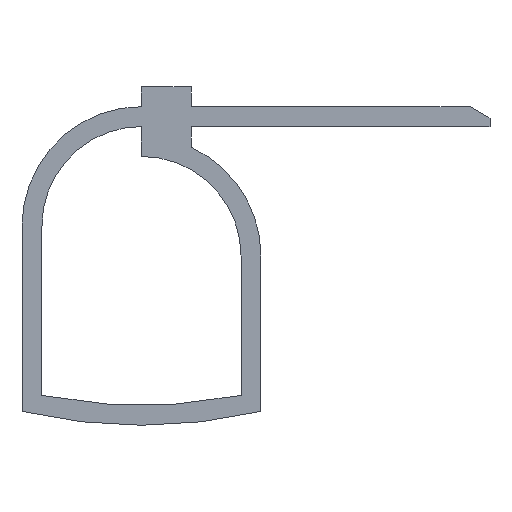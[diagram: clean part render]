
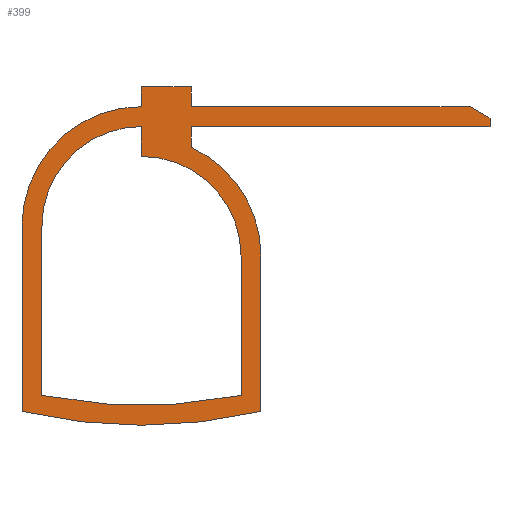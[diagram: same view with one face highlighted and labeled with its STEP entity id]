
A CAD part, front view. The second image highlights one B-rep face of the part: STEP entity #399.
In plain terms, the highlighted planar face has unit normal (0, -1, 0).
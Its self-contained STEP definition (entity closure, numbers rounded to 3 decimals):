
#19=FACE_BOUND('',#61,.T.);
#21=PLANE('',#436);
#38=FACE_OUTER_BOUND('',#60,.T.);
#60=EDGE_LOOP('',(#303,#304,#305,#306,#307,#308,#309,#310,#311,#312,#313,
#314,#315));
#61=EDGE_LOOP('',(#316,#317,#318,#319,#320,#321));
#96=LINE('',#626,#141);
#97=LINE('',#628,#142);
#98=LINE('',#630,#143);
#99=LINE('',#632,#144);
#100=LINE('',#634,#145);
#101=LINE('',#636,#146);
#102=LINE('',#639,#147);
#103=LINE('',#641,#148);
#104=LINE('',#645,#149);
#105=LINE('',#646,#150);
#106=LINE('',#651,#151);
#107=LINE('',#654,#152);
#108=LINE('',#655,#153);
#141=VECTOR('',#501,1000.);
#142=VECTOR('',#502,1000.);
#143=VECTOR('',#503,1000.);
#144=VECTOR('',#504,1000.);
#145=VECTOR('',#505,1000.);
#146=VECTOR('',#506,1000.);
#147=VECTOR('',#509,1000.);
#148=VECTOR('',#510,1000.);
#149=VECTOR('',#513,1000.);
#150=VECTOR('',#514,1000.);
#151=VECTOR('',#517,1000.);
#152=VECTOR('',#520,1000.);
#153=VECTOR('',#521,1000.);
#170=CIRCLE('',#427,50.5);
#172=CIRCLE('',#430,52.5);
#177=CIRCLE('',#437,12.);
#178=CIRCLE('',#438,12.);
#179=CIRCLE('',#439,10.);
#180=CIRCLE('',#440,10.);
#183=VERTEX_POINT('',#576);
#184=VERTEX_POINT('',#578);
#187=VERTEX_POINT('',#585);
#188=VERTEX_POINT('',#587);
#204=VERTEX_POINT('',#624);
#205=VERTEX_POINT('',#625);
#206=VERTEX_POINT('',#627);
#207=VERTEX_POINT('',#629);
#208=VERTEX_POINT('',#631);
#209=VERTEX_POINT('',#633);
#210=VERTEX_POINT('',#635);
#211=VERTEX_POINT('',#637);
#212=VERTEX_POINT('',#640);
#213=VERTEX_POINT('',#642);
#214=VERTEX_POINT('',#644);
#215=VERTEX_POINT('',#647);
#216=VERTEX_POINT('',#648);
#217=VERTEX_POINT('',#650);
#218=VERTEX_POINT('',#652);
#221=EDGE_CURVE('',#184,#183,#170,.T.);
#225=EDGE_CURVE('',#187,#188,#172,.T.);
#244=EDGE_CURVE('',#204,#205,#96,.T.);
#245=EDGE_CURVE('',#204,#206,#97,.T.);
#246=EDGE_CURVE('',#207,#206,#98,.T.);
#247=EDGE_CURVE('',#208,#207,#99,.T.);
#248=EDGE_CURVE('',#209,#208,#100,.T.);
#249=EDGE_CURVE('',#210,#209,#101,.T.);
#250=EDGE_CURVE('',#211,#210,#177,.T.);
#251=EDGE_CURVE('',#188,#211,#102,.T.);
#252=EDGE_CURVE('',#212,#187,#103,.T.);
#253=EDGE_CURVE('',#213,#212,#178,.T.);
#254=EDGE_CURVE('',#214,#213,#104,.T.);
#255=EDGE_CURVE('',#205,#214,#105,.T.);
#256=EDGE_CURVE('',#215,#216,#179,.T.);
#257=EDGE_CURVE('',#216,#217,#106,.T.);
#258=EDGE_CURVE('',#217,#218,#180,.T.);
#259=EDGE_CURVE('',#218,#184,#107,.T.);
#260=EDGE_CURVE('',#183,#215,#108,.T.);
#303=ORIENTED_EDGE('',*,*,#244,.F.);
#304=ORIENTED_EDGE('',*,*,#245,.T.);
#305=ORIENTED_EDGE('',*,*,#246,.F.);
#306=ORIENTED_EDGE('',*,*,#247,.F.);
#307=ORIENTED_EDGE('',*,*,#248,.F.);
#308=ORIENTED_EDGE('',*,*,#249,.F.);
#309=ORIENTED_EDGE('',*,*,#250,.F.);
#310=ORIENTED_EDGE('',*,*,#251,.F.);
#311=ORIENTED_EDGE('',*,*,#225,.F.);
#312=ORIENTED_EDGE('',*,*,#252,.F.);
#313=ORIENTED_EDGE('',*,*,#253,.F.);
#314=ORIENTED_EDGE('',*,*,#254,.F.);
#315=ORIENTED_EDGE('',*,*,#255,.F.);
#316=ORIENTED_EDGE('',*,*,#256,.T.);
#317=ORIENTED_EDGE('',*,*,#257,.T.);
#318=ORIENTED_EDGE('',*,*,#258,.T.);
#319=ORIENTED_EDGE('',*,*,#259,.T.);
#320=ORIENTED_EDGE('',*,*,#221,.T.);
#321=ORIENTED_EDGE('',*,*,#260,.T.);
#399=ADVANCED_FACE('',(#38,#19),#21,.F.);
#427=AXIS2_PLACEMENT_3D('',#579,#465,#466);
#430=AXIS2_PLACEMENT_3D('',#588,#473,#474);
#436=AXIS2_PLACEMENT_3D('',#623,#499,#500);
#437=AXIS2_PLACEMENT_3D('',#638,#507,#508);
#438=AXIS2_PLACEMENT_3D('',#643,#511,#512);
#439=AXIS2_PLACEMENT_3D('',#649,#515,#516);
#440=AXIS2_PLACEMENT_3D('',#653,#518,#519);
#465=DIRECTION('center_axis',(0.,1.,0.));
#466=DIRECTION('ref_axis',(0.,0.,-1.));
#473=DIRECTION('center_axis',(0.,1.,0.));
#474=DIRECTION('ref_axis',(0.,0.,-1.));
#499=DIRECTION('center_axis',(0.,1.,0.));
#500=DIRECTION('ref_axis',(0.,0.,1.));
#501=DIRECTION('',(0.,0.,-1.));
#502=DIRECTION('',(-0.866,0.,0.5));
#503=DIRECTION('',(1.,0.,0.));
#504=DIRECTION('',(0.,0.,-1.));
#505=DIRECTION('',(1.,0.,0.));
#506=DIRECTION('',(0.,0.,1.));
#507=DIRECTION('center_axis',(0.,1.,0.));
#508=DIRECTION('ref_axis',(0.,0.,1.));
#509=DIRECTION('',(0.,0.,1.));
#510=DIRECTION('',(0.,0.,-1.));
#511=DIRECTION('center_axis',(0.,1.,0.));
#512=DIRECTION('ref_axis',(0.,0.,1.));
#513=DIRECTION('',(0.,0.,-1.));
#514=DIRECTION('',(-1.,0.,0.));
#515=DIRECTION('center_axis',(0.,1.,0.));
#516=DIRECTION('ref_axis',(0.,0.,1.));
#517=DIRECTION('',(0.,0.,-1.));
#518=DIRECTION('center_axis',(0.,1.,0.));
#519=DIRECTION('ref_axis',(0.,0.,1.));
#520=DIRECTION('',(0.,0.,-1.));
#521=DIRECTION('',(0.,0.,1.));
#576=CARTESIAN_POINT('',(-10.,0.,-14.));
#578=CARTESIAN_POINT('',(10.,0.,-14.));
#579=CARTESIAN_POINT('Origin',(0.,0.,35.5));
#585=CARTESIAN_POINT('',(12.,0.,-15.61));
#587=CARTESIAN_POINT('',(-12.,0.,-15.61));
#588=CARTESIAN_POINT('Origin',(0.,0.,35.5));
#623=CARTESIAN_POINT('Origin',(0.,0.,3.));
#624=CARTESIAN_POINT('',(35.,0.,13.845));
#625=CARTESIAN_POINT('',(35.,0.,13.));
#626=CARTESIAN_POINT('',(35.,0.,15.));
#627=CARTESIAN_POINT('',(33.,0.,15.));
#628=CARTESIAN_POINT('',(35.,0.,13.845));
#629=CARTESIAN_POINT('',(5.,0.,15.));
#630=CARTESIAN_POINT('',(5.,0.,15.));
#631=CARTESIAN_POINT('',(5.,0.,17.));
#632=CARTESIAN_POINT('',(5.,0.,17.));
#633=CARTESIAN_POINT('',(0.,0.,17.));
#634=CARTESIAN_POINT('',(0.,0.,17.));
#635=CARTESIAN_POINT('',(0.,0.,15.));
#636=CARTESIAN_POINT('',(0.,0.,15.));
#637=CARTESIAN_POINT('',(-12.,0.,3.));
#638=CARTESIAN_POINT('Origin',(0.,0.,3.));
#639=CARTESIAN_POINT('',(-12.,0.,0.));
#640=CARTESIAN_POINT('',(12.,0.,0.));
#641=CARTESIAN_POINT('',(12.,0.,0.));
#642=CARTESIAN_POINT('',(5.,0.,10.909));
#643=CARTESIAN_POINT('Origin',(0.,0.,0.));
#644=CARTESIAN_POINT('',(5.,0.,13.));
#645=CARTESIAN_POINT('',(5.,0.,13.));
#646=CARTESIAN_POINT('',(35.,0.,13.));
#647=CARTESIAN_POINT('',(-10.,0.,3.));
#648=CARTESIAN_POINT('',(0.,0.,13.));
#649=CARTESIAN_POINT('Origin',(0.,0.,3.));
#650=CARTESIAN_POINT('',(0.,0.,10.));
#651=CARTESIAN_POINT('',(0.,0.,12.));
#652=CARTESIAN_POINT('',(10.,0.,0.));
#653=CARTESIAN_POINT('Origin',(0.,0.,0.));
#654=CARTESIAN_POINT('',(10.,0.,0.));
#655=CARTESIAN_POINT('',(-10.,0.,0.));
